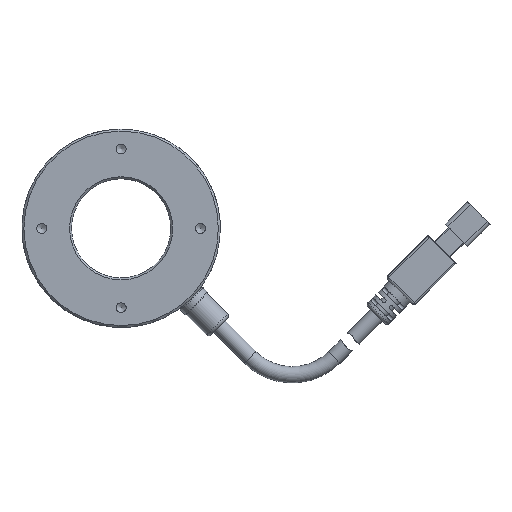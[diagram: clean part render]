
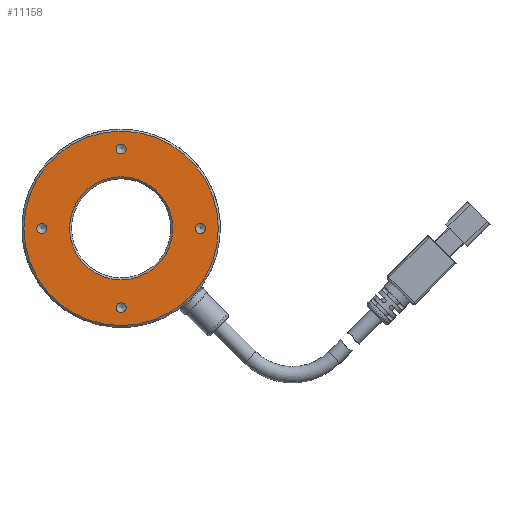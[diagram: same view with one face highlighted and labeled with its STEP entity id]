
A CAD part, front view. The second image highlights one B-rep face of the part: STEP entity #11158.
In plain terms, the highlighted planar face has unit normal (0, -1, 0).
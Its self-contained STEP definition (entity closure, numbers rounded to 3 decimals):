
#78 = CIRCLE ( 'NONE', #2649, 1.25 ) ;
#162 = CARTESIAN_POINT ( 'NONE',  ( 0., 0., 0. ) ) ;
#401 = AXIS2_PLACEMENT_3D ( 'NONE', #5661, #12205, #5537 ) ;
#558 = EDGE_LOOP ( 'NONE', ( #11348 ) ) ;
#650 = EDGE_CURVE ( 'NONE', #3420, #3420, #78, .T. ) ;
#1715 = AXIS2_PLACEMENT_3D ( 'NONE', #9559, #7483, #6892 ) ;
#1737 = CIRCLE ( 'NONE', #9398, 1.25 ) ;
#1848 = EDGE_CURVE ( 'NONE', #6590, #6590, #10897, .T. ) ;
#2126 = FACE_OUTER_BOUND ( 'NONE', #8149, .T. ) ;
#2649 = AXIS2_PLACEMENT_3D ( 'NONE', #6348, #10007, #7173 ) ;
#2955 = CIRCLE ( 'NONE', #1715, 1.25 ) ;
#3110 = CARTESIAN_POINT ( 'NONE',  ( 0., 0., 18.75 ) ) ;
#3195 = CARTESIAN_POINT ( 'NONE',  ( 0., 0., 24.5 ) ) ;
#3420 = VERTEX_POINT ( 'NONE', #4906 ) ;
#3567 = AXIS2_PLACEMENT_3D ( 'NONE', #162, #5952, #8732 ) ;
#4036 = VERTEX_POINT ( 'NONE', #8806 ) ;
#4125 = ORIENTED_EDGE ( 'NONE', *, *, #11191, .T. ) ;
#4462 = EDGE_LOOP ( 'NONE', ( #10791 ) ) ;
#4551 = FACE_BOUND ( 'NONE', #6794, .T. ) ;
#4658 = AXIS2_PLACEMENT_3D ( 'NONE', #10013, #8251, #9264 ) ;
#4800 = CARTESIAN_POINT ( 'NONE',  ( -20., 0., 0. ) ) ;
#4906 = CARTESIAN_POINT ( 'NONE',  ( 20., 0., -1.25 ) ) ;
#5010 = CIRCLE ( 'NONE', #401, 1.25 ) ;
#5537 = DIRECTION ( 'NONE',  ( 0., 0., -1. ) ) ;
#5661 = CARTESIAN_POINT ( 'NONE',  ( 0., 0., -20. ) ) ;
#5701 = AXIS2_PLACEMENT_3D ( 'NONE', #9427, #8464, #10216 ) ;
#5834 = EDGE_CURVE ( 'NONE', #7914, #7914, #2955, .T. ) ;
#5837 = VERTEX_POINT ( 'NONE', #3195 ) ;
#5952 = DIRECTION ( 'NONE',  ( 0., 1., 0. ) ) ;
#6228 = PLANE ( 'NONE',  #4658 ) ;
#6348 = CARTESIAN_POINT ( 'NONE',  ( 20., 0., 0. ) ) ;
#6366 = EDGE_CURVE ( 'NONE', #6606, #6606, #1737, .T. ) ;
#6590 = VERTEX_POINT ( 'NONE', #7652 ) ;
#6606 = VERTEX_POINT ( 'NONE', #9772 ) ;
#6793 = FACE_BOUND ( 'NONE', #9893, .T. ) ;
#6794 = EDGE_LOOP ( 'NONE', ( #8983 ) ) ;
#6892 = DIRECTION ( 'NONE',  ( 0., 0., -1. ) ) ;
#7078 = FACE_BOUND ( 'NONE', #558, .T. ) ;
#7173 = DIRECTION ( 'NONE',  ( 0., 0., -1. ) ) ;
#7181 = EDGE_CURVE ( 'NONE', #4036, #4036, #5010, .T. ) ;
#7483 = DIRECTION ( 'NONE',  ( 0., -1., 0. ) ) ;
#7652 = CARTESIAN_POINT ( 'NONE',  ( 0., 0., 13. ) ) ;
#7668 = DIRECTION ( 'NONE',  ( 0., -1., 0. ) ) ;
#7914 = VERTEX_POINT ( 'NONE', #3110 ) ;
#8101 = CIRCLE ( 'NONE', #5701, 24.5 ) ;
#8149 = EDGE_LOOP ( 'NONE', ( #4125 ) ) ;
#8251 = DIRECTION ( 'NONE',  ( 0., 1., 0. ) ) ;
#8464 = DIRECTION ( 'NONE',  ( 0., -1., 0. ) ) ;
#8732 = DIRECTION ( 'NONE',  ( 0., 0., 1. ) ) ;
#8806 = CARTESIAN_POINT ( 'NONE',  ( 0., 0., -21.25 ) ) ;
#8884 = ORIENTED_EDGE ( 'NONE', *, *, #1848, .T. ) ;
#8983 = ORIENTED_EDGE ( 'NONE', *, *, #7181, .F. ) ;
#9264 = DIRECTION ( 'NONE',  ( 0., 0., 1. ) ) ;
#9398 = AXIS2_PLACEMENT_3D ( 'NONE', #4800, #7668, #11399 ) ;
#9427 = CARTESIAN_POINT ( 'NONE',  ( 0., 0., 0. ) ) ;
#9559 = CARTESIAN_POINT ( 'NONE',  ( 0., 0., 20. ) ) ;
#9652 = EDGE_LOOP ( 'NONE', ( #8884 ) ) ;
#9772 = CARTESIAN_POINT ( 'NONE',  ( -20., 0., -1.25 ) ) ;
#9893 = EDGE_LOOP ( 'NONE', ( #10443 ) ) ;
#10007 = DIRECTION ( 'NONE',  ( 0., -1., 0. ) ) ;
#10013 = CARTESIAN_POINT ( 'NONE',  ( 0., 0., -25. ) ) ;
#10052 = FACE_BOUND ( 'NONE', #4462, .T. ) ;
#10216 = DIRECTION ( 'NONE',  ( 0., 0., 1. ) ) ;
#10443 = ORIENTED_EDGE ( 'NONE', *, *, #650, .F. ) ;
#10791 = ORIENTED_EDGE ( 'NONE', *, *, #5834, .F. ) ;
#10897 = CIRCLE ( 'NONE', #3567, 13. ) ;
#11158 = ADVANCED_FACE ( 'NONE', ( #6793, #7078, #10052, #4551, #12260, #2126 ), #6228, .F. ) ;
#11191 = EDGE_CURVE ( 'NONE', #5837, #5837, #8101, .T. ) ;
#11348 = ORIENTED_EDGE ( 'NONE', *, *, #6366, .F. ) ;
#11399 = DIRECTION ( 'NONE',  ( 0., 0., -1. ) ) ;
#12205 = DIRECTION ( 'NONE',  ( 0., -1., 0. ) ) ;
#12260 = FACE_BOUND ( 'NONE', #9652, .T. ) ;
